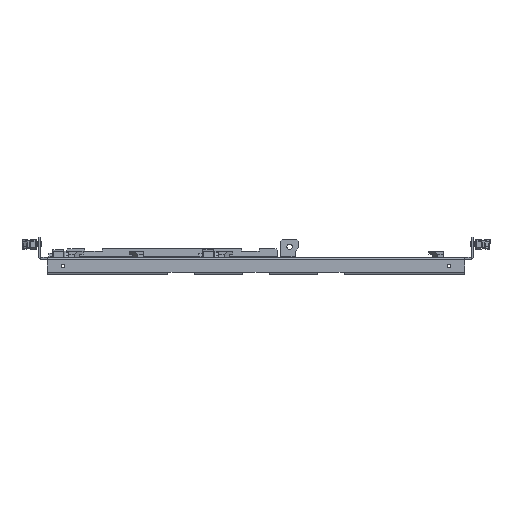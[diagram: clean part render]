
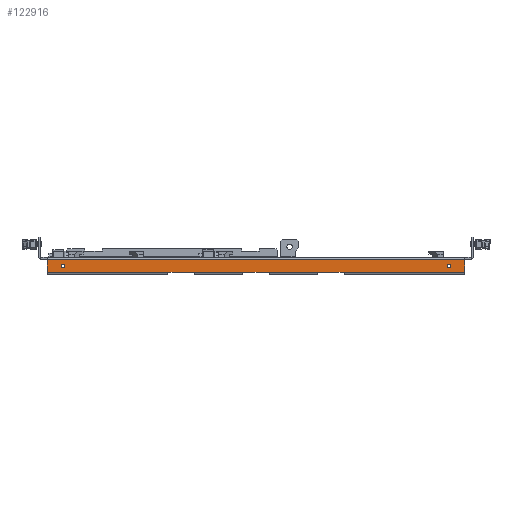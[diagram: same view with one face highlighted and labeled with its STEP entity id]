
A CAD part, front view. The second image highlights one B-rep face of the part: STEP entity #122916.
In plain terms, the highlighted planar face has unit normal (0, -1, 0).
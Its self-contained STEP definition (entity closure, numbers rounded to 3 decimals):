
#69921=CARTESIAN_POINT(' ',(239.5,-211.7,-2.6));
#69922=VERTEX_POINT(' ',#69921);
#69936=CARTESIAN_POINT(' ',(239.5,-211.7,-17.4));
#69941=DIRECTION(' ',(0.,0.,1.));
#69946=VECTOR(' ',#69941,1.);
#69951=LINE('',#69936,#69946);
#69956=CARTESIAN_POINT(' ',(239.5,-211.7,-17.4));
#69957=VERTEX_POINT(' ',#69956);
#69961=EDGE_CURVE(' ',#69957,#69922,#69951,.T.);
#70601=CARTESIAN_POINT(' ',(-239.5,-211.7,-17.4));
#70602=VERTEX_POINT(' ',#70601);
#70616=CARTESIAN_POINT(' ',(-239.5,-211.7,-2.6));
#70621=DIRECTION(' ',(0.,0.,-1.));
#70626=VECTOR(' ',#70621,1.);
#70631=LINE('',#70616,#70626);
#70636=CARTESIAN_POINT(' ',(-239.5,-211.7,-2.6));
#70637=VERTEX_POINT(' ',#70636);
#70641=EDGE_CURVE(' ',#70637,#70602,#70631,.T.);
#121316=CARTESIAN_POINT(' ',(-239.5,-211.7,-2.6));
#121321=DIRECTION(' ',(1.,0.,0.));
#121326=VECTOR(' ',#121321,1.);
#121331=LINE('',#121316,#121326);
#121336=EDGE_CURVE(' ',#70637,#69922,#121331,.T.);
#122446=DIRECTION(' ',(0.,-1.,0.));
#122451=CARTESIAN_POINT(' ',(-239.5,-211.7,-17.4));
#122456=DIRECTION(' ',(1.,0.,0.));
#122461=AXIS2_PLACEMENT_3D(' ',#122451,#122446,#122456);
#122466=PLANE('NONE',#122461);
#122471=ORIENTED_EDGE(' ',*,*,#121336,.F.);
#122476=ORIENTED_EDGE(' ',*,*,#70641,.T.);
#122481=CARTESIAN_POINT(' ',(-239.5,-211.7,-17.4));
#122486=DIRECTION(' ',(1.,0.,0.));
#122491=VECTOR(' ',#122486,1.);
#122496=LINE('',#122481,#122491);
#122501=CARTESIAN_POINT(' ',(-101.,-211.7,-17.4));
#122502=VERTEX_POINT(' ',#122501);
#122506=EDGE_CURVE(' ',#70602,#122502,#122496,.T.);
#122511=ORIENTED_EDGE(' ',*,*,#122506,.T.);
#122516=CARTESIAN_POINT(' ',(-71.,-211.7,-17.4));
#122521=DIRECTION(' ',(-1.,0.,0.));
#122526=VECTOR(' ',#122521,1.);
#122531=LINE('',#122516,#122526);
#122536=CARTESIAN_POINT(' ',(-71.,-211.7,-17.4));
#122537=VERTEX_POINT(' ',#122536);
#122541=EDGE_CURVE(' ',#122537,#122502,#122531,.T.);
#122546=ORIENTED_EDGE(' ',*,*,#122541,.F.);
#122551=CARTESIAN_POINT(' ',(-71.,-211.7,-17.4));
#122556=DIRECTION(' ',(1.,0.,0.));
#122561=VECTOR(' ',#122556,1.);
#122566=LINE('',#122551,#122561);
#122571=CARTESIAN_POINT(' ',(-15.,-211.7,-17.4));
#122572=VERTEX_POINT(' ',#122571);
#122576=EDGE_CURVE(' ',#122537,#122572,#122566,.T.);
#122581=ORIENTED_EDGE(' ',*,*,#122576,.T.);
#122586=CARTESIAN_POINT(' ',(15.,-211.7,-17.4));
#122591=DIRECTION(' ',(-1.,0.,0.));
#122596=VECTOR(' ',#122591,1.);
#122601=LINE('',#122586,#122596);
#122606=CARTESIAN_POINT(' ',(15.,-211.7,-17.4));
#122607=VERTEX_POINT(' ',#122606);
#122611=EDGE_CURVE(' ',#122607,#122572,#122601,.T.);
#122616=ORIENTED_EDGE(' ',*,*,#122611,.F.);
#122621=CARTESIAN_POINT(' ',(15.,-211.7,-17.4));
#122626=DIRECTION(' ',(1.,0.,0.));
#122631=VECTOR(' ',#122626,1.);
#122636=LINE('',#122621,#122631);
#122641=CARTESIAN_POINT(' ',(71.,-211.7,-17.4));
#122642=VERTEX_POINT(' ',#122641);
#122646=EDGE_CURVE(' ',#122607,#122642,#122636,.T.);
#122651=ORIENTED_EDGE(' ',*,*,#122646,.T.);
#122656=CARTESIAN_POINT(' ',(101.,-211.7,-17.4));
#122661=DIRECTION(' ',(-1.,0.,0.));
#122666=VECTOR(' ',#122661,1.);
#122671=LINE('',#122656,#122666);
#122676=CARTESIAN_POINT(' ',(101.,-211.7,-17.4));
#122677=VERTEX_POINT(' ',#122676);
#122681=EDGE_CURVE(' ',#122677,#122642,#122671,.T.);
#122686=ORIENTED_EDGE(' ',*,*,#122681,.F.);
#122691=CARTESIAN_POINT(' ',(101.,-211.7,-17.4));
#122696=DIRECTION(' ',(1.,0.,0.));
#122701=VECTOR(' ',#122696,1.);
#122706=LINE('',#122691,#122701);
#122711=EDGE_CURVE(' ',#122677,#69957,#122706,.T.);
#122716=ORIENTED_EDGE(' ',*,*,#122711,.T.);
#122721=ORIENTED_EDGE(' ',*,*,#69961,.T.);
#122726=EDGE_LOOP(' ',(#122471,#122476,#122511,#122546,#122581,#122616,#122651,#122686,#122716,#122721));
#122731=FACE_OUTER_BOUND(' ',#122726,.T.);
#122736=CARTESIAN_POINT(' ',(-221.5,-211.7,-10.));
#122741=DIRECTION(' ',(-0.,-1.,0.));
#122746=DIRECTION(' ',(0.,0.,-1.));
#122751=AXIS2_PLACEMENT_3D(' ',#122736,#122741,#122746);
#122756=CIRCLE('',#122751,2.2);
#122761=CARTESIAN_POINT(' ',(-221.5,-211.7,-12.2));
#122762=VERTEX_POINT(' ',#122761);
#122766=CARTESIAN_POINT(' ',(-221.5,-211.7,-7.8));
#122767=VERTEX_POINT(' ',#122766);
#122771=EDGE_CURVE(' ',#122762,#122767,#122756,.T.);
#122776=ORIENTED_EDGE(' ',*,*,#122771,.F.);
#122781=CARTESIAN_POINT(' ',(-221.5,-211.7,-10.));
#122786=DIRECTION(' ',(0.,-1.,0.));
#122791=DIRECTION(' ',(0.,0.,1.));
#122796=AXIS2_PLACEMENT_3D(' ',#122781,#122786,#122791);
#122801=CIRCLE('',#122796,2.2);
#122806=EDGE_CURVE(' ',#122767,#122762,#122801,.T.);
#122811=ORIENTED_EDGE(' ',*,*,#122806,.F.);
#122816=EDGE_LOOP(' ',(#122776,#122811));
#122821=FACE_BOUND(' ',#122816,.T.);
#122826=CARTESIAN_POINT(' ',(221.5,-211.7,-10.));
#122831=DIRECTION(' ',(-0.,-1.,0.));
#122836=DIRECTION(' ',(0.,0.,-1.));
#122841=AXIS2_PLACEMENT_3D(' ',#122826,#122831,#122836);
#122846=CIRCLE('',#122841,2.2);
#122851=CARTESIAN_POINT(' ',(221.5,-211.7,-12.2));
#122852=VERTEX_POINT(' ',#122851);
#122856=CARTESIAN_POINT(' ',(221.5,-211.7,-7.8));
#122857=VERTEX_POINT(' ',#122856);
#122861=EDGE_CURVE(' ',#122852,#122857,#122846,.T.);
#122866=ORIENTED_EDGE(' ',*,*,#122861,.F.);
#122871=CARTESIAN_POINT(' ',(221.5,-211.7,-10.));
#122876=DIRECTION(' ',(0.,-1.,0.));
#122881=DIRECTION(' ',(0.,0.,1.));
#122886=AXIS2_PLACEMENT_3D(' ',#122871,#122876,#122881);
#122891=CIRCLE('',#122886,2.2);
#122896=EDGE_CURVE(' ',#122857,#122852,#122891,.T.);
#122901=ORIENTED_EDGE(' ',*,*,#122896,.F.);
#122906=EDGE_LOOP(' ',(#122866,#122901));
#122911=FACE_BOUND(' ',#122906,.T.);
#122916=ADVANCED_FACE('NONE',(#122731,#122821,#122911),#122466,.T.);
